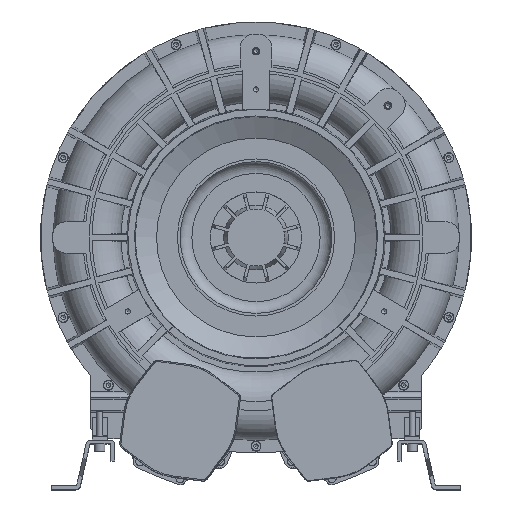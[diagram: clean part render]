
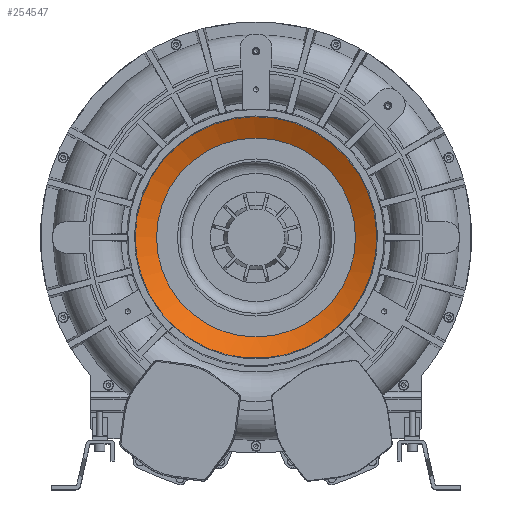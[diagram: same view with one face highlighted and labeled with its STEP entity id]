
A CAD part, top view. The second image highlights one B-rep face of the part: STEP entity #254547.
In plain terms, the highlighted conical face has half-angle 62 degrees and reference radius 131.023 mm.
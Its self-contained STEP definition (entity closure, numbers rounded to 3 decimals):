
#21180 = DIRECTION ( 'NONE',  ( 1., 0., 0. ) ) ;
#25060 = DIRECTION ( 'NONE',  ( 0., 0., 1. ) ) ;
#76475 = CIRCLE ( 'NONE', #242007, 131.023 ) ;
#83899 = CARTESIAN_POINT ( 'NONE',  ( 0., 0., 215.5 ) ) ;
#92383 = DIRECTION ( 'NONE',  ( 0., 0., -1. ) ) ;
#105956 = EDGE_LOOP ( 'NONE', ( #234364 ) ) ;
#108290 = DIRECTION ( 'NONE',  ( -1., 0., 0. ) ) ;
#111306 = EDGE_CURVE ( 'NONE', #262670, #262670, #76475, .T. ) ;
#117852 = CARTESIAN_POINT ( 'NONE',  ( 0., 0., 230.491 ) ) ;
#126315 = ORIENTED_EDGE ( 'NONE', *, *, #111306, .F. ) ;
#140401 = CONICAL_SURFACE ( 'NONE', #175279, 131.023, 1.082 ) ;
#143981 = FACE_BOUND ( 'NONE', #163991, .T. ) ;
#145324 = FACE_OUTER_BOUND ( 'NONE', #105956, .T. ) ;
#149081 = AXIS2_PLACEMENT_3D ( 'NONE', #117852, #92383, #201048 ) ;
#154329 = EDGE_CURVE ( 'NONE', #181416, #181416, #236164, .T. ) ;
#163649 = CARTESIAN_POINT ( 'NONE',  ( -159.217, 0., 230.491 ) ) ;
#163991 = EDGE_LOOP ( 'NONE', ( #126315 ) ) ;
#175279 = AXIS2_PLACEMENT_3D ( 'NONE', #83899, #228517, #21180 ) ;
#181416 = VERTEX_POINT ( 'NONE', #163649 ) ;
#201048 = DIRECTION ( 'NONE',  ( -1., 0., 0. ) ) ;
#202554 = CARTESIAN_POINT ( 'NONE',  ( -131.023, 0., 215.5 ) ) ;
#228517 = DIRECTION ( 'NONE',  ( 0., 0., 1. ) ) ;
#234364 = ORIENTED_EDGE ( 'NONE', *, *, #154329, .F. ) ;
#236164 = CIRCLE ( 'NONE', #149081, 159.217 ) ;
#242007 = AXIS2_PLACEMENT_3D ( 'NONE', #251592, #25060, #108290 ) ;
#251592 = CARTESIAN_POINT ( 'NONE',  ( 0., 0., 215.5 ) ) ;
#254547 = ADVANCED_FACE ( 'NONE', ( #145324, #143981 ), #140401, .F. ) ;
#262670 = VERTEX_POINT ( 'NONE', #202554 ) ;
